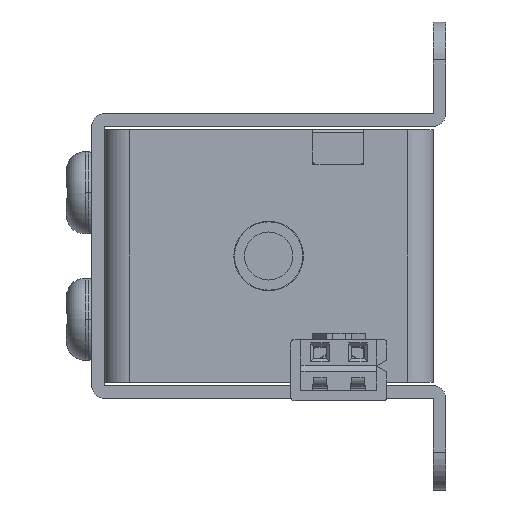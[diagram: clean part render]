
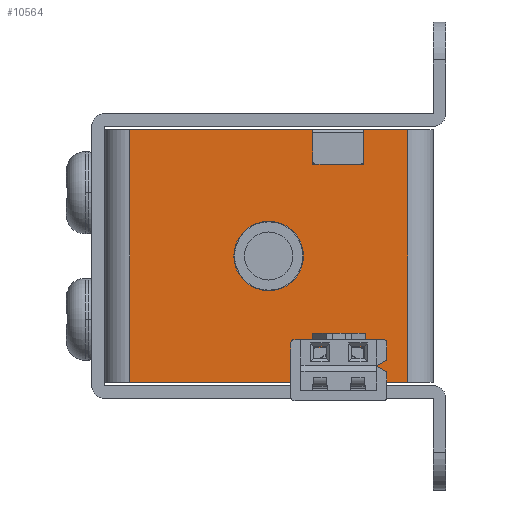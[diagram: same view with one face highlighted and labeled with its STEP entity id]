
A CAD part, left-side view. The second image highlights one B-rep face of the part: STEP entity #10564.
In plain terms, the highlighted planar face has unit normal (-1, 0, 0).
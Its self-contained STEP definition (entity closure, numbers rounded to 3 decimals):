
#37=DIRECTION('',(0.,-1.,0.));
#38=VECTOR('',#37,14.5);
#39=CARTESIAN_POINT('',(-27.,11.,-10.));
#40=LINE('',#39,#38);
#86=DIRECTION('',(0.,-1.,0.));
#87=VECTOR('',#86,3.5);
#88=CARTESIAN_POINT('',(-27.,-7.5,-10.));
#89=LINE('',#88,#87);
#3171=DIRECTION('',(0.,-1.,0.));
#3172=VECTOR('',#3171,14.5);
#3173=CARTESIAN_POINT('',(-27.,11.,10.));
#3174=LINE('',#3173,#3172);
#3180=DIRECTION('',(0.,-1.,0.));
#3181=VECTOR('',#3180,3.5);
#3182=CARTESIAN_POINT('',(-27.,-7.5,10.));
#3183=LINE('',#3182,#3181);
#3246=CARTESIAN_POINT('',(-27.,0.,0.));
#3247=DIRECTION('',(-1.,0.,0.));
#3248=DIRECTION('',(0.,0.,1.));
#3249=AXIS2_PLACEMENT_3D('',#3246,#3247,#3248);
#3251=CARTESIAN_POINT('',(-27.,0.,0.));
#3252=DIRECTION('',(-1.,0.,0.));
#3253=DIRECTION('',(0.,0.,-1.));
#3254=AXIS2_PLACEMENT_3D('',#3251,#3252,#3253);
#3256=DIRECTION('',(0.,0.,-1.));
#3257=VECTOR('',#3256,20.);
#3258=CARTESIAN_POINT('',(-27.,11.,10.));
#3259=LINE('',#3258,#3257);
#3260=DIRECTION('',(0.,0.,-1.));
#3261=VECTOR('',#3260,2.75);
#3262=CARTESIAN_POINT('',(-27.,-3.5,10.));
#3263=LINE('',#3262,#3261);
#3264=DIRECTION('',(0.,-1.,0.));
#3265=VECTOR('',#3264,4.);
#3266=CARTESIAN_POINT('',(-27.,-3.5,7.25));
#3267=LINE('',#3266,#3265);
#3268=DIRECTION('',(0.,0.,-1.));
#3269=VECTOR('',#3268,2.75);
#3270=CARTESIAN_POINT('',(-27.,-7.5,10.));
#3271=LINE('',#3270,#3269);
#3272=DIRECTION('',(0.,0.,-1.));
#3273=VECTOR('',#3272,20.);
#3274=CARTESIAN_POINT('',(-27.,-11.,10.));
#3275=LINE('',#3274,#3273);
#3276=DIRECTION('',(0.,0.,1.));
#3277=VECTOR('',#3276,2.75);
#3278=CARTESIAN_POINT('',(-27.,-7.5,-10.));
#3279=LINE('',#3278,#3277);
#3280=DIRECTION('',(0.,1.,0.));
#3281=VECTOR('',#3280,4.);
#3282=CARTESIAN_POINT('',(-27.,-7.5,-7.25));
#3283=LINE('',#3282,#3281);
#3284=DIRECTION('',(0.,0.,1.));
#3285=VECTOR('',#3284,2.75);
#3286=CARTESIAN_POINT('',(-27.,-3.5,-10.));
#3287=LINE('',#3286,#3285);
#3648=CARTESIAN_POINT('',(-27.,-7.5,-10.));
#3650=VERTEX_POINT('',#3648);
#3652=CARTESIAN_POINT('',(-27.,-3.5,-10.));
#3654=VERTEX_POINT('',#3652);
#3656=CARTESIAN_POINT('',(-27.,-3.5,10.));
#3658=VERTEX_POINT('',#3656);
#3660=CARTESIAN_POINT('',(-27.,-7.5,10.));
#3662=VERTEX_POINT('',#3660);
#3664=CARTESIAN_POINT('',(-27.,-7.5,-7.25));
#3665=VERTEX_POINT('',#3664);
#3666=CARTESIAN_POINT('',(-27.,-3.5,-7.25));
#3667=VERTEX_POINT('',#3666);
#3668=CARTESIAN_POINT('',(-27.,-3.5,7.25));
#3669=VERTEX_POINT('',#3668);
#3670=CARTESIAN_POINT('',(-27.,-7.5,7.25));
#3671=VERTEX_POINT('',#3670);
#3680=CARTESIAN_POINT('',(-27.,0.,2.75));
#3681=CARTESIAN_POINT('',(-27.,0.,-2.75));
#3682=VERTEX_POINT('',#3680);
#3683=VERTEX_POINT('',#3681);
#3784=CARTESIAN_POINT('',(-27.,11.,-10.));
#3786=VERTEX_POINT('',#3784);
#3790=CARTESIAN_POINT('',(-27.,11.,10.));
#3791=VERTEX_POINT('',#3790);
#3793=CARTESIAN_POINT('',(-27.,-11.,-10.));
#3795=VERTEX_POINT('',#3793);
#3796=CARTESIAN_POINT('',(-27.,-11.,10.));
#3797=VERTEX_POINT('',#3796);
#10534=CARTESIAN_POINT('',(-27.,13.,-10.));
#10535=DIRECTION('',(-1.,0.,0.));
#10536=DIRECTION('',(0.,-1.,0.));
#10537=AXIS2_PLACEMENT_3D('',#10534,#10535,#10536);
#10538=PLANE('',#10537);
#10539=ORIENTED_EDGE('',*,*,#4068,.F.);
#10540=ORIENTED_EDGE('',*,*,#10415,.T.);
#10542=ORIENTED_EDGE('',*,*,#10541,.T.);
#10544=ORIENTED_EDGE('',*,*,#10543,.T.);
#10546=ORIENTED_EDGE('',*,*,#10545,.F.);
#10547=ORIENTED_EDGE('',*,*,#10434,.T.);
#10549=ORIENTED_EDGE('',*,*,#10548,.T.);
#10550=ORIENTED_EDGE('',*,*,#4046,.F.);
#10551=ORIENTED_EDGE('',*,*,#10501,.T.);
#10552=ORIENTED_EDGE('',*,*,#10518,.T.);
#10554=ORIENTED_EDGE('',*,*,#10553,.F.);
#10555=ORIENTED_EDGE('',*,*,#4007,.F.);
#10556=EDGE_LOOP('',(#10539,#10540,#10542,#10544,#10546,#10547,#10549,#10550,
#10551,#10552,#10554,#10555));
#10557=FACE_OUTER_BOUND('',#10556,.F.);
#10559=ORIENTED_EDGE('',*,*,#10558,.T.);
#10561=ORIENTED_EDGE('',*,*,#10560,.T.);
#10562=EDGE_LOOP('',(#10559,#10561));
#10563=FACE_BOUND('',#10562,.F.);
#10564=ADVANCED_FACE('',(#10557,#10563),#10538,.T.);
#3250=CIRCLE('',#3249,2.75);
#3255=CIRCLE('',#3254,2.75);
#4007=EDGE_CURVE('',#3786,#3654,#40,.T.);
#4046=EDGE_CURVE('',#3650,#3795,#89,.T.);
#4068=EDGE_CURVE('',#3791,#3786,#3259,.T.);
#10415=EDGE_CURVE('',#3791,#3658,#3174,.T.);
#10434=EDGE_CURVE('',#3662,#3797,#3183,.T.);
#10501=EDGE_CURVE('',#3650,#3665,#3279,.T.);
#10518=EDGE_CURVE('',#3665,#3667,#3283,.T.);
#10541=EDGE_CURVE('',#3658,#3669,#3263,.T.);
#10543=EDGE_CURVE('',#3669,#3671,#3267,.T.);
#10545=EDGE_CURVE('',#3662,#3671,#3271,.T.);
#10548=EDGE_CURVE('',#3797,#3795,#3275,.T.);
#10553=EDGE_CURVE('',#3654,#3667,#3287,.T.);
#10558=EDGE_CURVE('',#3682,#3683,#3250,.T.);
#10560=EDGE_CURVE('',#3683,#3682,#3255,.T.);
